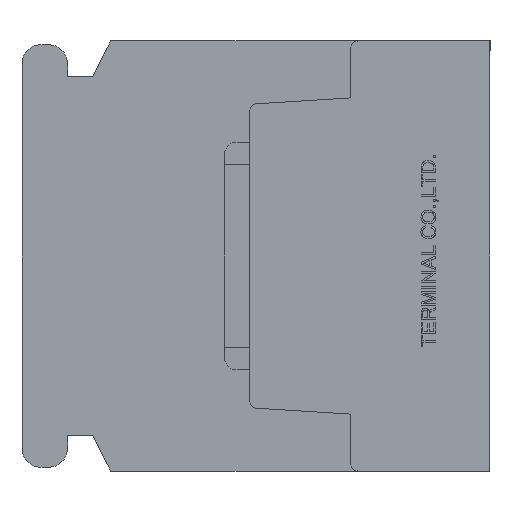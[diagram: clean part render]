
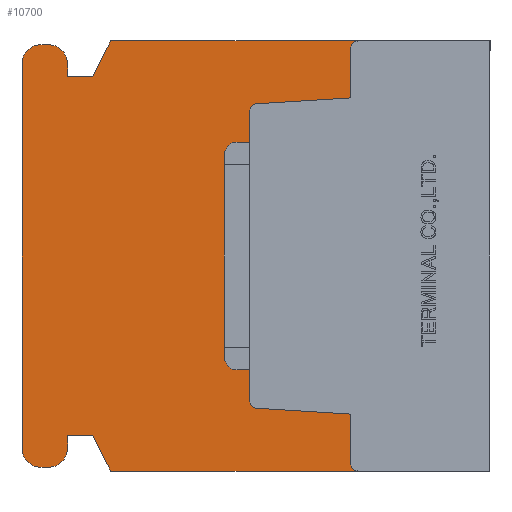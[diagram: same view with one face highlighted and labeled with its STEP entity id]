
A CAD part, left-side view. The second image highlights one B-rep face of the part: STEP entity #10700.
In plain terms, the highlighted planar face has unit normal (-1, 0, 0).
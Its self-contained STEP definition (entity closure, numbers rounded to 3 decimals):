
#1102=VECTOR('',#12666,1.);
#1108=VECTOR('',#12681,1.);
#1110=VECTOR('',#12684,1.);
#1113=VECTOR('',#12692,1.);
#1116=VECTOR('',#12700,1.);
#1156=VECTOR('',#12771,1.);
#1160=VECTOR('',#12780,1.);
#1162=VECTOR('',#12783,1.);
#1164=VECTOR('',#12786,1.);
#1166=VECTOR('',#12789,1.);
#1169=VECTOR('',#12793,1.);
#1171=VECTOR('',#12796,1.);
#1174=VECTOR('',#12804,1.);
#1177=VECTOR('',#12812,1.);
#1178=VECTOR('',#12818,1.);
#1179=VECTOR('',#12819,1.);
#2270=LINE('',#15807,#1102);
#2276=LINE('',#15823,#1108);
#2278=LINE('',#15827,#1110);
#2281=LINE('',#15835,#1113);
#2284=LINE('',#15843,#1116);
#2324=LINE('',#15939,#1156);
#2328=LINE('',#15949,#1160);
#2330=LINE('',#15953,#1162);
#2332=LINE('',#15957,#1164);
#2334=LINE('',#15961,#1166);
#2337=LINE('',#15967,#1169);
#2339=LINE('',#15971,#1171);
#2342=LINE('',#15979,#1174);
#2345=LINE('',#15987,#1177);
#2346=LINE('',#15991,#1178);
#2347=LINE('',#15992,#1179);
#3072=PLANE('',#11351);
#3810=VERTEX_POINT('',#15808);
#3811=VERTEX_POINT('',#15809);
#3812=VERTEX_POINT('',#15814);
#3813=VERTEX_POINT('',#15818);
#3814=VERTEX_POINT('',#15819);
#3815=VERTEX_POINT('',#15824);
#3816=VERTEX_POINT('',#15828);
#3817=VERTEX_POINT('',#15832);
#3818=VERTEX_POINT('',#15836);
#3819=VERTEX_POINT('',#15840);
#3856=VERTEX_POINT('',#15938);
#3857=VERTEX_POINT('',#15940);
#3858=VERTEX_POINT('',#15944);
#3859=VERTEX_POINT('',#15948);
#3860=VERTEX_POINT('',#15952);
#3861=VERTEX_POINT('',#15956);
#3862=VERTEX_POINT('',#15960);
#3863=VERTEX_POINT('',#15962);
#3864=VERTEX_POINT('',#15966);
#3865=VERTEX_POINT('',#15970);
#3866=VERTEX_POINT('',#15974);
#3867=VERTEX_POINT('',#15978);
#3868=VERTEX_POINT('',#15982);
#3869=VERTEX_POINT('',#15986);
#4375=CIRCLE('',#11305,0.3);
#4376=CIRCLE('',#11307,0.3);
#4377=CIRCLE('',#11311,0.3);
#4378=CIRCLE('',#11314,0.3);
#4387=CIRCLE('',#11336,0.75);
#4388=CIRCLE('',#11344,0.75);
#4389=CIRCLE('',#11347,0.75);
#4390=CIRCLE('',#11350,0.75);
#5243=EDGE_CURVE('',#3810,#3811,#2270,.T.);
#5246=EDGE_CURVE('',#3812,#3810,#4375,.T.);
#5248=EDGE_CURVE('',#3813,#3814,#4376,.T.);
#5251=EDGE_CURVE('',#3815,#3813,#2276,.T.);
#5253=EDGE_CURVE('',#3816,#3815,#2278,.T.);
#5255=EDGE_CURVE('',#3817,#3816,#4377,.T.);
#5257=EDGE_CURVE('',#3818,#3817,#2281,.T.);
#5259=EDGE_CURVE('',#3819,#3818,#4378,.T.);
#5261=EDGE_CURVE('',#3811,#3819,#2284,.T.);
#5309=EDGE_CURVE('',#3856,#3857,#2324,.T.);
#5312=EDGE_CURVE('',#3858,#3856,#4387,.T.);
#5314=EDGE_CURVE('',#3859,#3858,#2328,.T.);
#5316=EDGE_CURVE('',#3860,#3859,#2330,.T.);
#5318=EDGE_CURVE('',#3861,#3860,#2332,.T.);
#5320=EDGE_CURVE('',#3862,#3863,#2334,.T.);
#5323=EDGE_CURVE('',#3864,#3862,#2337,.T.);
#5325=EDGE_CURVE('',#3865,#3864,#2339,.T.);
#5327=EDGE_CURVE('',#3866,#3865,#4388,.T.);
#5329=EDGE_CURVE('',#3867,#3866,#2342,.T.);
#5331=EDGE_CURVE('',#3868,#3867,#4389,.T.);
#5333=EDGE_CURVE('',#3869,#3868,#2345,.T.);
#5334=EDGE_CURVE('',#3857,#3869,#4390,.T.);
#5335=EDGE_CURVE('',#3863,#3814,#2346,.T.);
#5336=EDGE_CURVE('',#3812,#3861,#2347,.T.);
#7715=ORIENTED_EDGE('',*,*,#5248,.T.);
#7716=ORIENTED_EDGE('',*,*,#5335,.F.);
#7717=ORIENTED_EDGE('',*,*,#5320,.F.);
#7718=ORIENTED_EDGE('',*,*,#5323,.F.);
#7719=ORIENTED_EDGE('',*,*,#5325,.F.);
#7720=ORIENTED_EDGE('',*,*,#5327,.F.);
#7721=ORIENTED_EDGE('',*,*,#5329,.F.);
#7722=ORIENTED_EDGE('',*,*,#5331,.F.);
#7723=ORIENTED_EDGE('',*,*,#5333,.F.);
#7724=ORIENTED_EDGE('',*,*,#5334,.F.);
#7725=ORIENTED_EDGE('',*,*,#5309,.F.);
#7726=ORIENTED_EDGE('',*,*,#5312,.F.);
#7727=ORIENTED_EDGE('',*,*,#5314,.F.);
#7728=ORIENTED_EDGE('',*,*,#5316,.F.);
#7729=ORIENTED_EDGE('',*,*,#5318,.F.);
#7730=ORIENTED_EDGE('',*,*,#5336,.F.);
#7731=ORIENTED_EDGE('',*,*,#5246,.T.);
#7732=ORIENTED_EDGE('',*,*,#5243,.T.);
#7733=ORIENTED_EDGE('',*,*,#5261,.T.);
#7734=ORIENTED_EDGE('',*,*,#5259,.T.);
#7735=ORIENTED_EDGE('',*,*,#5257,.T.);
#7736=ORIENTED_EDGE('',*,*,#5255,.T.);
#7737=ORIENTED_EDGE('',*,*,#5253,.T.);
#7738=ORIENTED_EDGE('',*,*,#5251,.T.);
#9436=EDGE_LOOP('',(#7715,#7716,#7717,#7718,#7719,#7720,#7721,#7722,#7723,
#7724,#7725,#7726,#7727,#7728,#7729,#7730,#7731,#7732,#7733,#7734,#7735,
#7736,#7737,#7738));
#10088=FACE_BOUND('',#9436,.T.);
#10700=ADVANCED_FACE('',(#10088),#3072,.F.);
#11305=AXIS2_PLACEMENT_3D('',#15813,#12671,#12672);
#11307=AXIS2_PLACEMENT_3D('',#15817,#12676,#12677);
#11311=AXIS2_PLACEMENT_3D('',#15831,#12688,#12689);
#11314=AXIS2_PLACEMENT_3D('',#15839,#12696,#12697);
#11336=AXIS2_PLACEMENT_3D('',#15945,#12776,#12777);
#11344=AXIS2_PLACEMENT_3D('',#15975,#12800,#12801);
#11347=AXIS2_PLACEMENT_3D('',#15983,#12808,#12809);
#11350=AXIS2_PLACEMENT_3D('',#15989,#12815,#12816);
#11351=AXIS2_PLACEMENT_3D('',#15990,#12817,$);
#12666=DIRECTION('',(0.,0.,1.));
#12671=DIRECTION('',(1.,0.,0.));
#12672=DIRECTION('',(0.,0.,-0.3));
#12676=DIRECTION('',(1.,0.,0.));
#12677=DIRECTION('',(0.,0.,-0.3));
#12681=DIRECTION('',(0.,0.,1.));
#12684=DIRECTION('',(0.,-0.998,0.062));
#12688=DIRECTION('',(1.,0.,0.));
#12689=DIRECTION('',(0.,0.,-0.3));
#12692=DIRECTION('',(0.,0.,1.));
#12696=DIRECTION('',(1.,0.,0.));
#12697=DIRECTION('',(0.,0.,-0.3));
#12700=DIRECTION('',(0.,0.998,0.062));
#12771=DIRECTION('',(0.,1.,0.));
#12776=DIRECTION('',(1.,0.,0.));
#12777=DIRECTION('',(0.,0.,-0.75));
#12780=DIRECTION('',(0.,0.,-1.));
#12783=DIRECTION('',(0.,1.,0.));
#12786=DIRECTION('',(0.,0.447,0.894));
#12789=DIRECTION('',(0.,-0.447,0.894));
#12793=DIRECTION('',(0.,-1.,0.));
#12796=DIRECTION('',(0.,0.,-1.));
#12800=DIRECTION('',(1.,0.,0.));
#12801=DIRECTION('',(0.,0.,-0.75));
#12804=DIRECTION('',(0.,-1.,0.));
#12808=DIRECTION('',(1.,0.,0.));
#12809=DIRECTION('',(0.,0.,-0.75));
#12812=DIRECTION('',(0.,0.,1.));
#12815=DIRECTION('',(1.,0.,0.));
#12816=DIRECTION('',(0.,0.,-0.75));
#12817=DIRECTION('',(1.,0.,0.));
#12818=DIRECTION('',(0.,-1.,0.));
#12819=DIRECTION('',(0.,1.,0.));
#15807=CARTESIAN_POINT('',(0.,5.5,-3.613));
#15808=CARTESIAN_POINT('',(0.,5.5,-8.2));
#15809=CARTESIAN_POINT('',(0.,5.5,-6.25));
#15813=CARTESIAN_POINT('',(0.,5.2,-8.2));
#15814=CARTESIAN_POINT('',(0.,5.2,-8.5));
#15817=CARTESIAN_POINT('',(0.,5.2,8.2));
#15818=CARTESIAN_POINT('',(0.,5.5,8.2));
#15819=CARTESIAN_POINT('',(0.,5.2,8.5));
#15823=CARTESIAN_POINT('',(0.,5.5,3.612));
#15824=CARTESIAN_POINT('',(0.,5.5,6.25));
#15827=CARTESIAN_POINT('',(0.,8.598,6.056));
#15828=CARTESIAN_POINT('',(0.,9.219,6.018));
#15831=CARTESIAN_POINT('',(0.,9.2,5.718));
#15832=CARTESIAN_POINT('',(0.,9.5,5.718));
#15835=CARTESIAN_POINT('',(0.,9.5,0.));
#15836=CARTESIAN_POINT('',(0.,9.5,-5.718));
#15839=CARTESIAN_POINT('',(0.,9.2,-5.718));
#15840=CARTESIAN_POINT('',(0.,9.219,-6.018));
#15843=CARTESIAN_POINT('',(0.,8.598,-6.056));
#15938=CARTESIAN_POINT('',(0.,17.45,-8.35));
#15939=CARTESIAN_POINT('',(0.,17.45,-8.35));
#15940=CARTESIAN_POINT('',(0.,17.75,-8.35));
#15944=CARTESIAN_POINT('',(0.,16.7,-7.6));
#15945=CARTESIAN_POINT('',(0.,17.45,-7.6));
#15948=CARTESIAN_POINT('',(0.,16.7,-7.1));
#15949=CARTESIAN_POINT('',(0.,16.7,-7.1));
#15952=CARTESIAN_POINT('',(0.,15.7,-7.1));
#15953=CARTESIAN_POINT('',(0.,15.7,-7.1));
#15956=CARTESIAN_POINT('',(0.,15.,-8.5));
#15957=CARTESIAN_POINT('',(0.,15.,-8.5));
#15960=CARTESIAN_POINT('',(0.,15.7,7.1));
#15961=CARTESIAN_POINT('',(0.,15.7,7.1));
#15962=CARTESIAN_POINT('',(0.,15.,8.5));
#15966=CARTESIAN_POINT('',(0.,16.7,7.1));
#15967=CARTESIAN_POINT('',(0.,16.7,7.1));
#15970=CARTESIAN_POINT('',(0.,16.7,7.6));
#15971=CARTESIAN_POINT('',(0.,16.7,7.6));
#15974=CARTESIAN_POINT('',(0.,17.45,8.35));
#15975=CARTESIAN_POINT('',(0.,17.45,7.6));
#15978=CARTESIAN_POINT('',(0.,17.75,8.35));
#15979=CARTESIAN_POINT('',(0.,17.75,8.35));
#15982=CARTESIAN_POINT('',(0.,18.5,7.6));
#15983=CARTESIAN_POINT('',(0.,17.75,7.6));
#15986=CARTESIAN_POINT('',(0.,18.5,-7.6));
#15987=CARTESIAN_POINT('',(0.,18.5,-7.6));
#15989=CARTESIAN_POINT('',(0.,17.75,-7.6));
#15990=CARTESIAN_POINT('',(0.,9.463,0.));
#15991=CARTESIAN_POINT('',(0.,15.,8.5));
#15992=CARTESIAN_POINT('',(0.,0.,-8.5));
